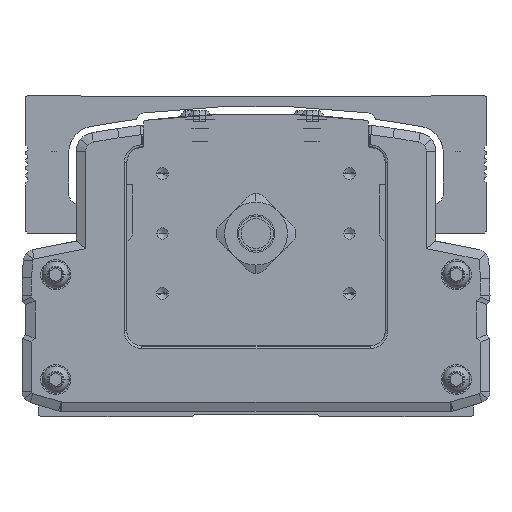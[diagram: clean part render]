
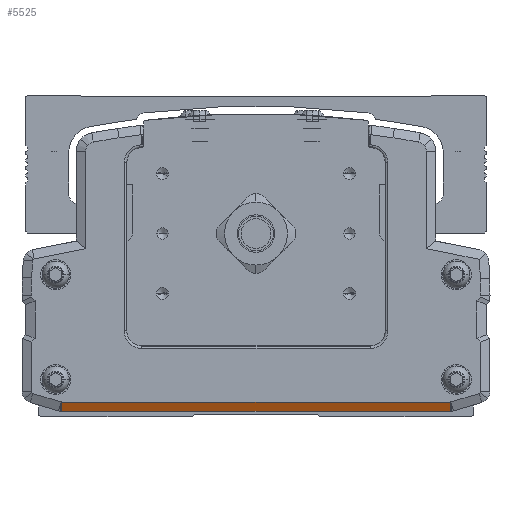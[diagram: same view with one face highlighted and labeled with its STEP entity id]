
A CAD part, front view. The second image highlights one B-rep face of the part: STEP entity #5525.
In plain terms, the highlighted planar face has unit normal (0, -0.894, -0.447).
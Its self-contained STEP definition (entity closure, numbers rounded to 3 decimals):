
#5525=ADVANCED_FACE('',(#11397),#11398,.T.);
#11397=FACE_OUTER_BOUND('',#18767,.T.);
#11398=PLANE('',#18768);
#18767=EDGE_LOOP('',(#35474,#35475,#35476,#35477));
#18768=AXIS2_PLACEMENT_3D('',#35478,#35479,#35480);
#35474=ORIENTED_EDGE('',*,*,#39971,.T.);
#35475=ORIENTED_EDGE('',*,*,#43779,.T.);
#35476=ORIENTED_EDGE('',*,*,#41907,.F.);
#35477=ORIENTED_EDGE('',*,*,#44306,.T.);
#35478=CARTESIAN_POINT('',(-300.01,-435.153,-46.25));
#35479=DIRECTION('',(0.,-0.894,-0.447));
#35480=DIRECTION('',(-1.0,0.,0.));
#39971=EDGE_CURVE('',#48534,#48532,#48535,.T.);
#41907=EDGE_CURVE('',#51505,#46343,#51507,.T.);
#43779=EDGE_CURVE('',#48532,#46343,#54072,.T.);
#44306=EDGE_CURVE('',#51505,#48534,#54695,.T.);
#46343=VERTEX_POINT('',#57386);
#48532=VERTEX_POINT('',#60482);
#48534=VERTEX_POINT('',#60484);
#48535=LINE('',#60485,#60486);
#51505=VERTEX_POINT('',#65006);
#51507=LINE('',#65008,#65009);
#54072=LINE('',#69002,#69003);
#54695=LINE('',#69835,#69836);
#57386=CARTESIAN_POINT('',(-248.132,-434.528,-47.5));
#60482=CARTESIAN_POINT('',(-351.868,-434.528,-47.5));
#60484=CARTESIAN_POINT('',(-351.868,-435.778,-45.));
#60485=CARTESIAN_POINT('',(-351.868,-435.778,-45.));
#60486=VECTOR('',#73404,10.0);
#65006=CARTESIAN_POINT('',(-248.132,-435.778,-45.));
#65008=CARTESIAN_POINT('',(-248.132,-435.778,-45.));
#65009=VECTOR('',#75793,10.);
#69002=CARTESIAN_POINT('',(-300.01,-434.528,-47.5));
#69003=VECTOR('',#77862,10.0);
#69835=CARTESIAN_POINT('',(-300.01,-435.778,-45.));
#69836=VECTOR('',#78378,10.0);
#73404=DIRECTION('',(0.,0.447,-0.894));
#75793=DIRECTION('',(0.,0.447,-0.894));
#77862=DIRECTION('',(1.0,0.,0.));
#78378=DIRECTION('',(-1.0,0.,0.));
